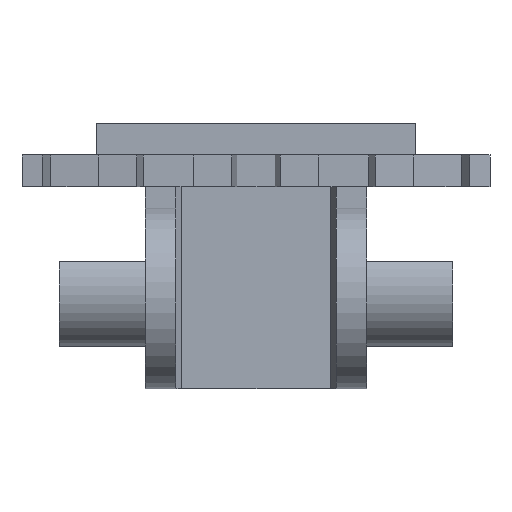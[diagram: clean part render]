
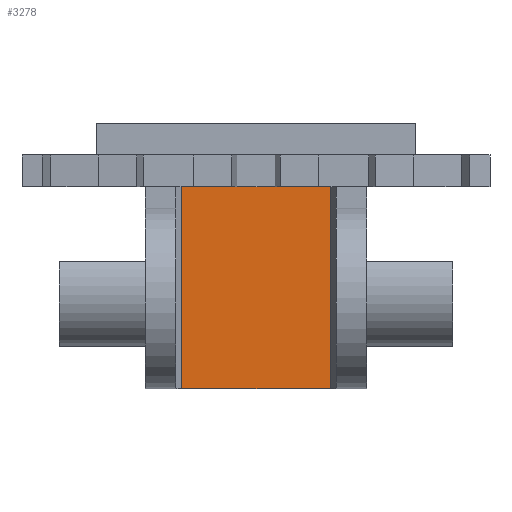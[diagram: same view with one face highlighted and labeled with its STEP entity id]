
A CAD part, left-side view. The second image highlights one B-rep face of the part: STEP entity #3278.
In plain terms, the highlighted planar face has unit normal (-1, 0, 0).
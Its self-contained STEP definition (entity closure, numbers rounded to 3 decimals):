
#2235 = DIRECTION ( 'NONE',  ( 0., 1., 0. ) ) ;
#2236 = VECTOR ( 'NONE', #2235, 1000. ) ;
#2237 = CARTESIAN_POINT ( 'NONE',  ( -0.003, -7.827, 14.1 ) ) ;
#2250 = LINE ( 'NONE', #2237, #2236 ) ;
#2260 = CARTESIAN_POINT ( 'NONE',  ( -0.003, -7.277, 14.1 ) ) ;
#2265 = CARTESIAN_POINT ( 'NONE',  ( -0.003, 6.723, 14.1 ) ) ;
#2268 = CARTESIAN_POINT ( 'NONE',  ( -0.003, -7.277, 33.1 ) ) ;
#2306 = DIRECTION ( 'NONE',  ( 0., 1., 0. ) ) ;
#2307 = VECTOR ( 'NONE', #2306, 1000. ) ;
#2308 = CARTESIAN_POINT ( 'NONE',  ( -0.003, -7.827, 33.1 ) ) ;
#2311 = LINE ( 'NONE', #2308, #2307 ) ;
#2313 = CARTESIAN_POINT ( 'NONE',  ( -0.003, 6.723, 33.1 ) ) ;
#2485 = FACE_OUTER_BOUND ( 'NONE', #3275, .T. ) ;
#2543 = PLANE ( 'NONE',  #2551 ) ;
#2549 = CARTESIAN_POINT ( 'NONE',  ( -0.003, -7.827, 33.1 ) ) ;
#2551 = AXIS2_PLACEMENT_3D ( 'NONE', #2549, #2557, #2607 ) ;
#2552 = VECTOR ( 'NONE', #2560, 1000. ) ;
#2557 = DIRECTION ( 'NONE',  ( 1., 0., 0. ) ) ;
#2560 = DIRECTION ( 'NONE',  ( 0., 0., -1. ) ) ;
#2561 = CARTESIAN_POINT ( 'NONE',  ( -0.003, 6.723, 14.1 ) ) ;
#2562 = LINE ( 'NONE', #2561, #2552 ) ;
#2597 = DIRECTION ( 'NONE',  ( 0., 0., 1. ) ) ;
#2598 = VECTOR ( 'NONE', #2597, 1000. ) ;
#2599 = CARTESIAN_POINT ( 'NONE',  ( -0.003, -7.277, 33.1 ) ) ;
#2601 = LINE ( 'NONE', #2599, #2598 ) ;
#2607 = DIRECTION ( 'NONE',  ( 0., 0., -1. ) ) ;
#3035 = VERTEX_POINT ( 'NONE', #2260 ) ;
#3045 = VERTEX_POINT ( 'NONE', #2265 ) ;
#3048 = EDGE_CURVE ( 'NONE', #3035, #3045, #2250, .T. ) ;
#3067 = VERTEX_POINT ( 'NONE', #2268 ) ;
#3073 = EDGE_CURVE ( 'NONE', #3067, #3082, #2311, .T. ) ;
#3082 = VERTEX_POINT ( 'NONE', #2313 ) ;
#3251 = ORIENTED_EDGE ( 'NONE', *, *, #3281, .T. ) ;
#3271 = ORIENTED_EDGE ( 'NONE', *, *, #3073, .T. ) ;
#3272 = EDGE_CURVE ( 'NONE', #3082, #3045, #2562, .T. ) ;
#3274 = ORIENTED_EDGE ( 'NONE', *, *, #3272, .T. ) ;
#3275 = EDGE_LOOP ( 'NONE', ( #3271, #3274, #3276, #3251 ) ) ;
#3276 = ORIENTED_EDGE ( 'NONE', *, *, #3048, .F. ) ;
#3278 = ADVANCED_FACE ( 'NONE', ( #2485 ), #2543, .F. ) ;
#3281 = EDGE_CURVE ( 'NONE', #3035, #3067, #2601, .T. ) ;
